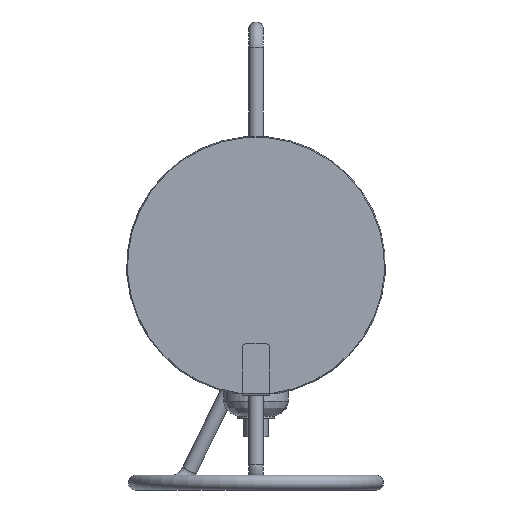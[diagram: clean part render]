
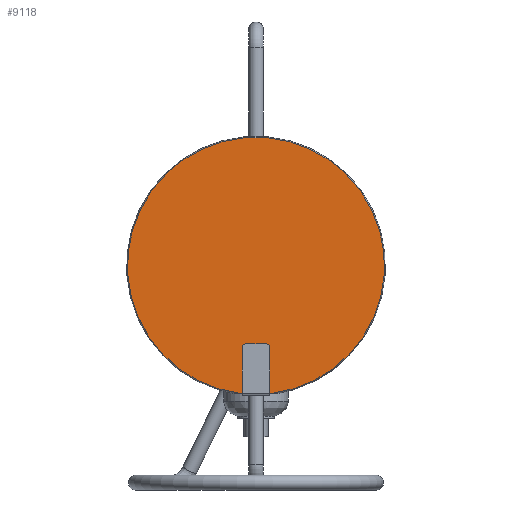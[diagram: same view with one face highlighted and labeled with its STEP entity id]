
A CAD part, front view. The second image highlights one B-rep face of the part: STEP entity #9118.
In plain terms, the highlighted planar face has unit normal (0, -1, 0).
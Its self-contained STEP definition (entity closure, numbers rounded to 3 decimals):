
#218=LINE('',#16943,#1009);
#1009=VECTOR('',#13864,1000.);
#1865=PLANE('',#12786);
#2347=ORIENTED_EDGE('',*,*,#4960,.F.);
#2348=ORIENTED_EDGE('',*,*,#4961,.T.);
#2349=ORIENTED_EDGE('',*,*,#4962,.T.);
#4960=EDGE_CURVE('',#6283,#6283,#7173,.T.);
#4961=EDGE_CURVE('',#6284,#6285,#7174,.T.);
#4962=EDGE_CURVE('',#6285,#6284,#218,.T.);
#6283=VERTEX_POINT('',#16939);
#6284=VERTEX_POINT('',#16941);
#6285=VERTEX_POINT('',#16942);
#7173=CIRCLE('',#12787,5.5);
#7174=CIRCLE('',#12788,69.5);
#7612=EDGE_LOOP('',(#2347));
#7613=EDGE_LOOP('',(#2348,#2349));
#8284=FACE_BOUND('',#7612,.T.);
#8285=FACE_BOUND('',#7613,.T.);
#9118=ADVANCED_FACE('',(#8284,#8285),#1865,.F.);
#12786=AXIS2_PLACEMENT_3D('',#16937,#13858,#13859);
#12787=AXIS2_PLACEMENT_3D('',#16938,#13860,#13861);
#12788=AXIS2_PLACEMENT_3D('',#16940,#13862,#13863);
#13858=DIRECTION('',(0.,1.,0.));
#13859=DIRECTION('',(0.,0.,1.));
#13860=DIRECTION('',(0.,-1.,0.));
#13861=DIRECTION('',(1.,0.,0.));
#13862=DIRECTION('',(0.,-1.,0.));
#13863=DIRECTION('',(1.,0.,0.));
#13864=DIRECTION('',(1.,0.,0.));
#16937=CARTESIAN_POINT('',(0.,-3.,0.));
#16938=CARTESIAN_POINT('',(0.,-3.,-55.));
#16939=CARTESIAN_POINT('',(5.5,-3.,-55.));
#16940=CARTESIAN_POINT('',(0.,-3.,0.));
#16941=CARTESIAN_POINT('',(8.322,-3.,-69.));
#16942=CARTESIAN_POINT('',(-8.322,-3.,-69.));
#16943=CARTESIAN_POINT('',(-20.,-3.,-69.));
